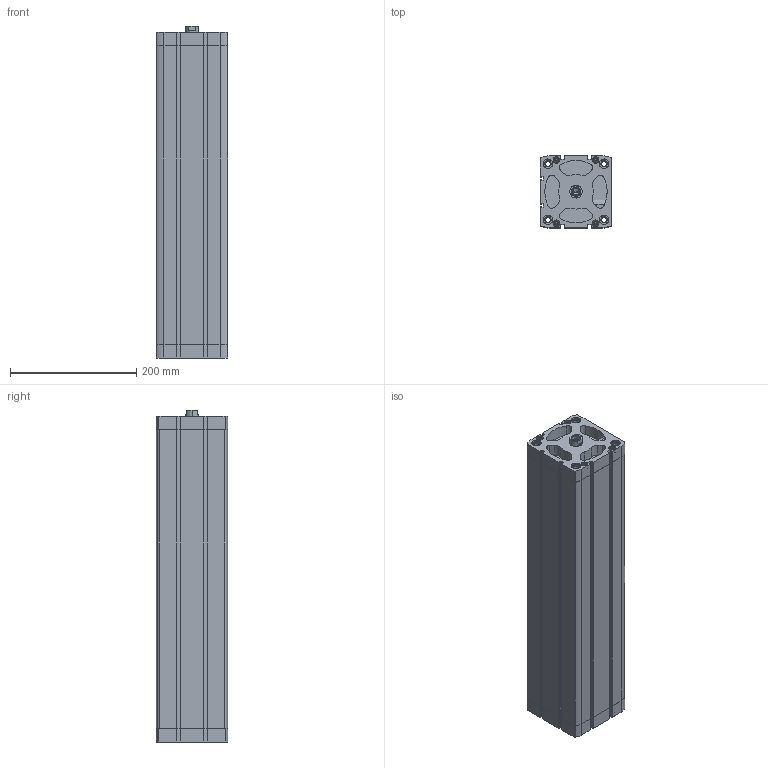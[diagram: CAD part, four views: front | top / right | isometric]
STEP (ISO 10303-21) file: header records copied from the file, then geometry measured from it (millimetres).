
FILE_DESCRIPTION (( 'STEP AP203' ), '1' );
FILE_NAME ('CCN100-450F.STEP', '2020-06-05T18:16:39', ( '' ), ( '' ), 'SwSTEP 2.0', 'SolidWorks 2019', '' );
FILE_SCHEMA (( 'CONFIG_CONTROL_DESIGN' ));
Length unit declared in the file: millimetre
Products named in the file (1): CCN100-450F
Bounding box: 113.5 x 113.5 x 526.8 mm (x, y, z)
Volume: 2815401.8 mm3; surface area: 590347.5 mm2
Topology: 2 solids, 2 shells, 628 faces, 1631 edges, 1043 vertices
Faces by surface type: plane 284, cylinder 270, cone 74
Entity records: 20342 total; most frequent: CARTESIAN_POINT 4507, DIRECTION 3451, ORIENTED_EDGE 3226, EDGE_CURVE 1613, AXIS2_PLACEMENT_3D 1281, VERTEX_POINT 1043, VECTOR 889, LINE 889
